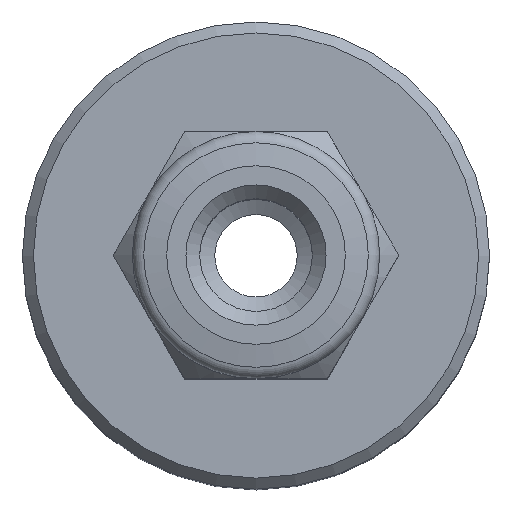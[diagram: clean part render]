
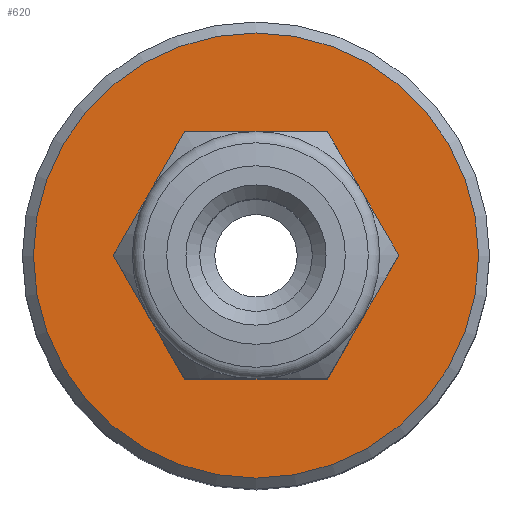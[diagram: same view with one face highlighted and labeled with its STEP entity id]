
A CAD part, top view. The second image highlights one B-rep face of the part: STEP entity #620.
In plain terms, the highlighted planar face has unit normal (0, 0, 1).
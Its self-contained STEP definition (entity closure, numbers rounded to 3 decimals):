
#620=ADVANCED_FACE('', (#630,#640), #650, .T.);
#3150=AXIS2_PLACEMENT_3D('Ax2Pl3d', #3160, #3170, #3180);
#3190=AXIS2_PLACEMENT_3D('Ax2Pl3d', #3200, #3210, #3220);
#3160=CARTESIAN_POINT('HicPkt', (32.447,-46.199,
46.668));
#3200=CARTESIAN_POINT('HicPkt', (32.447,-54.299,
46.668));
#6750=CARTESIAN_POINT('', (32.447,-46.199,46.668));
#6760=CARTESIAN_POINT('', (29.849,-49.799,46.668));
#6770=CARTESIAN_POINT('', (35.045,-49.799,46.668));
#6780=CARTESIAN_POINT('', (29.849,-49.799,46.668))
;
#6790=CARTESIAN_POINT('', (35.045,-49.799,46.668));
#6800=CARTESIAN_POINT('', (37.643,-54.299,46.668));
#6810=CARTESIAN_POINT('', (37.643,-54.299,46.668));
#6820=CARTESIAN_POINT('', (35.045,-58.799,46.668))
;
#6830=CARTESIAN_POINT('', (35.045,-58.799,46.668));
#6840=CARTESIAN_POINT('', (29.849,-58.799,46.668));
#6850=CARTESIAN_POINT('', (29.849,-58.799,46.668));
#6860=CARTESIAN_POINT('', (27.251,-54.299,46.668))
;
#6870=CARTESIAN_POINT('', (27.251,-54.299,46.668));
#7470=CIRCLE('Circle', #3190, 8.1);
#3170=DIRECTION('Axis', (0.,0.,1.));
#3180=DIRECTION('RefDirection', (1.,0.,-0.));
#3210=DIRECTION('Axis', (0.,0.,1.));
#3220=DIRECTION('RefDirection', (1.,0.,-0.));
#10390=DIRECTION('', (-1.,0.,0.));
#10400=DIRECTION('', (-0.5,0.866,0.));
#10410=DIRECTION('', (0.5,0.866,0.));
#10420=DIRECTION('', (1.,0.,0.));
#10430=DIRECTION('', (0.5,-0.866,0.));
#10440=DIRECTION('', (-0.5,-0.866,0.));
#10750=EDGE_CURVE('', #10760, #10760, #7470, .T.);
#10770=EDGE_CURVE('', #10780, #10790, #10800, .T.);
#10810=EDGE_CURVE('', #10820, #10780, #10830, .T.);
#10840=EDGE_CURVE('', #10850, #10820, #10860, .T.);
#10870=EDGE_CURVE('', #10880, #10850, #10890, .T.);
#10900=EDGE_CURVE('', #10910, #10880, #10920, .T.);
#10930=EDGE_CURVE('', #10790, #10910, #10940, .T.);
#12330=EDGE_LOOP('Edge_loop', (#12340));
#12350=EDGE_LOOP('Edge_loop', (#12360,#12370,#12380,#12390,#12400,
#12410));
#640=FACE_BOUND('', #12350, .T.);
#630=FACE_OUTER_BOUND('Face_outer_bound', #12330, .T.);
#10800=LINE('Line', #6760, #14490);
#10830=LINE('Line', #6790, #14500);
#10860=LINE('Line', #6810, #14510);
#10890=LINE('Line', #6830, #14520);
#10920=LINE('Line', #6850, #14530);
#10940=LINE('Line', #6870, #14540);
#12340=ORIENTED_EDGE('', *, *, #10750, .T.);
#12360=ORIENTED_EDGE('', *, *, #10770, .F.);
#12370=ORIENTED_EDGE('', *, *, #10810, .F.);
#12380=ORIENTED_EDGE('', *, *, #10840, .F.);
#12390=ORIENTED_EDGE('', *, *, #10870, .F.);
#12400=ORIENTED_EDGE('', *, *, #10900, .F.);
#12410=ORIENTED_EDGE('', *, *, #10930, .F.);
#650=PLANE('Plane', #3150);
#14490=VECTOR('', #10390, 5.196);
#14500=VECTOR('', #10400, 5.196);
#14510=VECTOR('', #10410, 5.196);
#14520=VECTOR('', #10420, 5.196);
#14530=VECTOR('', #10430, 5.196);
#14540=VECTOR('', #10440, 5.196);
#10760=VERTEX_POINT('', #6750);
#10780=VERTEX_POINT('', #6770);
#10790=VERTEX_POINT('', #6780);
#10820=VERTEX_POINT('', #6800);
#10850=VERTEX_POINT('', #6820);
#10880=VERTEX_POINT('', #6840);
#10910=VERTEX_POINT('', #6860);
